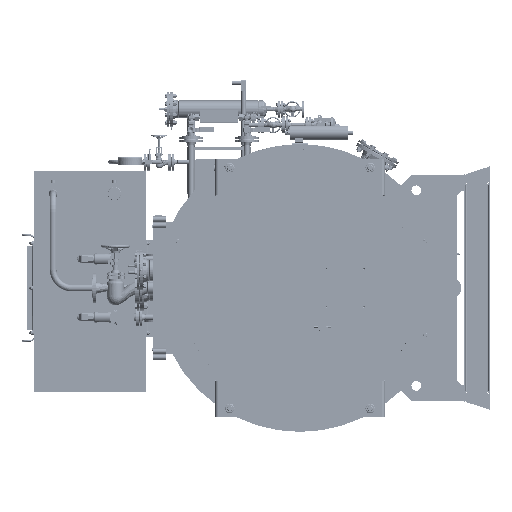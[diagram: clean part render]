
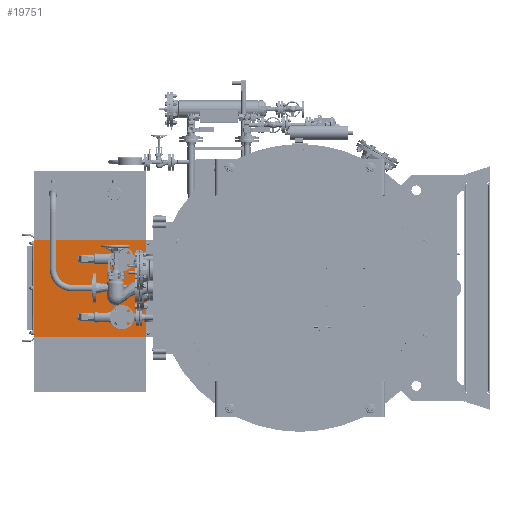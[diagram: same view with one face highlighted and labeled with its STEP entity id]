
A CAD part, left-side view. The second image highlights one B-rep face of the part: STEP entity #19751.
In plain terms, the highlighted planar face has unit normal (-1, 0, 0).
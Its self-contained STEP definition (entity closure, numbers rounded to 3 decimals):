
#19751=ADVANCED_FACE('',(#119684),#119686,.T.);
#119684=FACE_BOUND('',#119685,.T.);
#119685=EDGE_LOOP('',(#218382,#218383,#218384,#218385,#218386,#218387,#218388,#218389));
#119686=PLANE('',#119687);
#119687=AXIS2_PLACEMENT_3D('',#119688,#119689,#119690);
#119688=CARTESIAN_POINT('',(582.,1233.,299.5));
#119689=DIRECTION('',(-1.,0.,0.));
#119690=DIRECTION('',(0.,1.,0.));
#218382=ORIENTED_EDGE('',*,*,#267270,.T.);
#218383=ORIENTED_EDGE('',*,*,#267271,.T.);
#218384=ORIENTED_EDGE('',*,*,#267272,.T.);
#218385=ORIENTED_EDGE('',*,*,#267273,.T.);
#218386=ORIENTED_EDGE('',*,*,#266823,.T.);
#218387=ORIENTED_EDGE('',*,*,#267269,.F.);
#218388=ORIENTED_EDGE('',*,*,#266837,.F.);
#218389=ORIENTED_EDGE('',*,*,#267274,.T.);
#266823=EDGE_CURVE('',#296751,#296749,#296752,.T.);
#266837=EDGE_CURVE('',#296771,#296773,#296774,.T.);
#267269=EDGE_CURVE('',#296773,#296749,#297505,.T.);
#267270=EDGE_CURVE('',#297506,#297507,#297508,.T.);
#267271=EDGE_CURVE('',#297507,#297509,#297510,.T.);
#267272=EDGE_CURVE('',#297509,#297511,#297512,.T.);
#267273=EDGE_CURVE('',#297511,#296751,#297513,.T.);
#267274=EDGE_CURVE('',#296771,#297506,#297514,.T.);
#296749=VERTEX_POINT('',#375389);
#296751=VERTEX_POINT('',#375393);
#296752=LINE('',#375394,#375395);
#296771=VERTEX_POINT('',#375439);
#296773=VERTEX_POINT('',#375443);
#296774=LINE('',#375444,#375445);
#297505=LINE('',#378444,#378445);
#297506=VERTEX_POINT('',#378447);
#297507=VERTEX_POINT('',#378448);
#297508=CIRCLE('',#378449,5.);
#297509=VERTEX_POINT('',#378453);
#297510=LINE('',#378454,#378455);
#297511=VERTEX_POINT('',#378457);
#297512=CIRCLE('',#378458,5.);
#297513=LINE('',#378462,#378463);
#297514=LINE('',#378465,#378466);
#375389=CARTESIAN_POINT('',(582.,1928.,-300.5));
#375393=CARTESIAN_POINT('',(582.,1928.,299.5));
#375394=CARTESIAN_POINT('',(582.,1928.,299.5));
#375395=VECTOR('',#375396,1.);
#375396=DIRECTION('',(0.,0.,-1.));
#375439=CARTESIAN_POINT('',(582.,1233.,299.5));
#375443=CARTESIAN_POINT('',(582.,1233.,-300.5));
#375444=CARTESIAN_POINT('',(582.,1233.,299.5));
#375445=VECTOR('',#375446,1.);
#375446=DIRECTION('',(0.,0.,-1.));
#378444=CARTESIAN_POINT('',(582.,1233.,-300.5));
#378445=VECTOR('',#378446,1.);
#378446=DIRECTION('',(0.,1.,0.));
#378447=CARTESIAN_POINT('',(582.,1801.321,299.5));
#378448=CARTESIAN_POINT('',(582.,1803.5,299.));
#378449=AXIS2_PLACEMENT_3D('',#378450,#378451,#378452);
#378450=CARTESIAN_POINT('',(582.,1803.5,304.));
#378451=DIRECTION('',(1.,0.,0.));
#378452=DIRECTION('',(0.,-0.436,-0.9));
#378453=CARTESIAN_POINT('',(582.,1888.5,299.));
#378454=CARTESIAN_POINT('',(582.,1803.5,299.));
#378455=VECTOR('',#378456,1.);
#378456=DIRECTION('',(0.,1.,0.));
#378457=CARTESIAN_POINT('',(582.,1890.679,299.5));
#378458=AXIS2_PLACEMENT_3D('',#378459,#378460,#378461);
#378459=CARTESIAN_POINT('',(582.,1888.5,304.));
#378460=DIRECTION('',(1.,0.,0.));
#378461=DIRECTION('',(0.,0.,-1.));
#378462=CARTESIAN_POINT('',(582.,1890.679,299.5));
#378463=VECTOR('',#378464,1.);
#378464=DIRECTION('',(0.,1.,0.));
#378465=CARTESIAN_POINT('',(582.,1233.,299.5));
#378466=VECTOR('',#378467,1.);
#378467=DIRECTION('',(0.,1.,0.));
